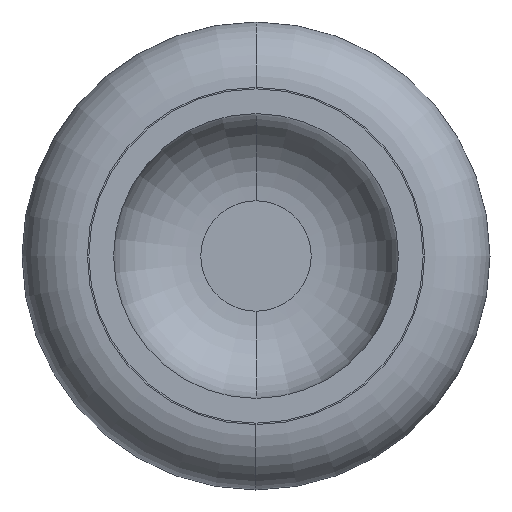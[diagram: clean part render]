
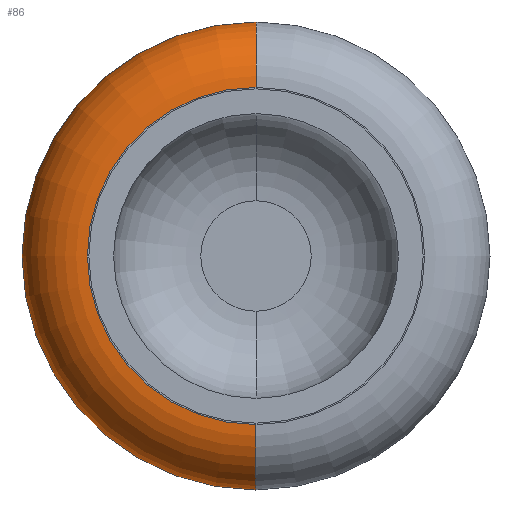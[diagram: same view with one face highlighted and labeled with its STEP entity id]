
A CAD part, left-side view. The second image highlights one B-rep face of the part: STEP entity #86.
In plain terms, the highlighted toroidal (fillet/blend) face has major radius 5.8 mm and minor radius 2.25 mm.
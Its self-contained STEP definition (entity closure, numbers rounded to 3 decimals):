
#86=ADVANCED_FACE('',(#199),#200,.T.);
#199=FACE_OUTER_BOUND('',#345,.T.);
#200=TOROIDAL_SURFACE('',#346,5.8,2.25);
#345=EDGE_LOOP('',(#530,#531,#532,#533));
#346=AXIS2_PLACEMENT_3D('',#534,#535,#536);
#530=ORIENTED_EDGE('',*,*,#828,.T.);
#531=ORIENTED_EDGE('',*,*,#836,.F.);
#532=ORIENTED_EDGE('',*,*,#837,.F.);
#533=ORIENTED_EDGE('',*,*,#838,.F.);
#534=CARTESIAN_POINT('',(6.5,0.0,0.));
#535=DIRECTION('',(-1.0,0.0,0.));
#536=DIRECTION('',(0.,0.0,1.0));
#828=EDGE_CURVE('',#928,#927,#972,.T.);
#836=EDGE_CURVE('',#984,#927,#985,.T.);
#837=EDGE_CURVE('',#986,#984,#987,.T.);
#838=EDGE_CURVE('',#928,#986,#988,.T.);
#927=VERTEX_POINT('',#1107);
#928=VERTEX_POINT('',#1108);
#972=CIRCLE('',#1152,8.05);
#984=VERTEX_POINT('',#1166);
#985=CIRCLE('',#1167,2.25);
#986=VERTEX_POINT('',#1168);
#987=CIRCLE('',#1169,5.8);
#988=CIRCLE('',#1170,2.25);
#1107=CARTESIAN_POINT('',(6.5,0.,-8.05));
#1108=CARTESIAN_POINT('',(6.5,0.,8.05));
#1152=AXIS2_PLACEMENT_3D('',#1364,#1365,#1366);
#1166=CARTESIAN_POINT('',(4.25,0.,-5.8));
#1167=AXIS2_PLACEMENT_3D('',#1378,#1379,#1380);
#1168=CARTESIAN_POINT('',(4.25,0.,5.8));
#1169=AXIS2_PLACEMENT_3D('',#1381,#1382,#1383);
#1170=AXIS2_PLACEMENT_3D('',#1384,#1385,#1386);
#1364=CARTESIAN_POINT('',(6.5,0.0,0.));
#1365=DIRECTION('',(-1.0,0.0,0.));
#1366=DIRECTION('',(0.,0.0,1.0));
#1378=CARTESIAN_POINT('',(6.5,0.,-5.8));
#1379=DIRECTION('',(0.,-1.0,0.));
#1380=DIRECTION('',(0.,0.,-1.0));
#1381=CARTESIAN_POINT('',(4.25,0.0,0.));
#1382=DIRECTION('',(-1.0,0.0,0.));
#1383=DIRECTION('',(0.,0.0,-1.0));
#1384=CARTESIAN_POINT('',(6.5,0.,5.8));
#1385=DIRECTION('',(0.,-1.0,0.));
#1386=DIRECTION('',(0.,0.,1.0));
